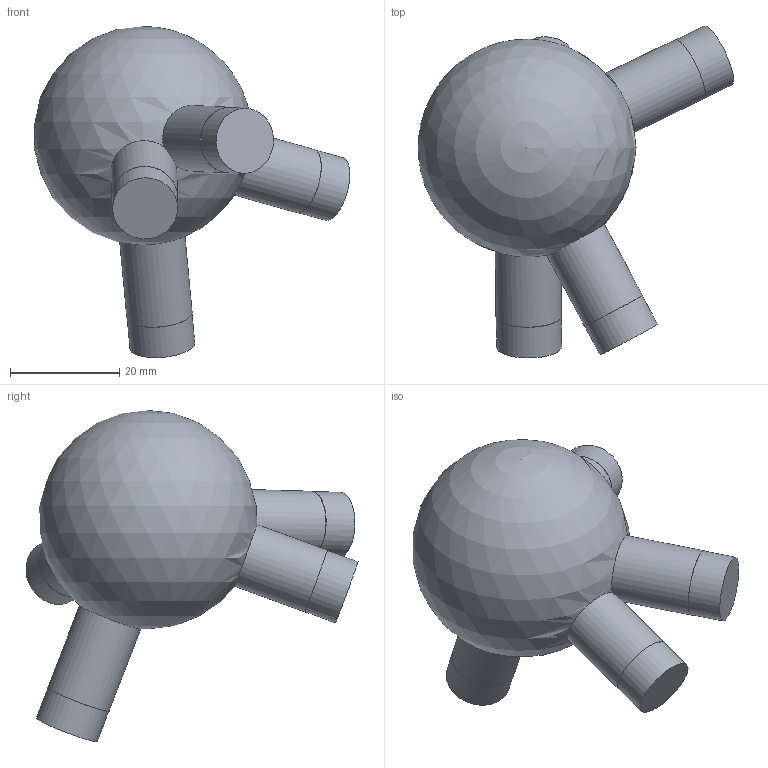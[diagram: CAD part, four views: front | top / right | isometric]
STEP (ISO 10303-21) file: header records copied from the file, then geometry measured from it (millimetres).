
FILE_DESCRIPTION(('Open CASCADE Model'),'2;1');
FILE_NAME('Open CASCADE Shape Model','2026-10-21T12:47:57',('Author'),( 'Open CASCADE'),'Open CASCADE STEP processor 7.9','Open CASCADE 7.9' ,'Unknown');
FILE_SCHEMA(('AUTOMOTIVE_DESIGN { 1 0 10303 214 1 1 1 1 }'));
Length unit declared in the file: millimetre
Products named in the file (1): Open CASCADE STEP translator 7.9 44
Bounding box: 57.74 x 60.75 x 60.63 mm (x, y, z)
Volume: 42715.3 mm3; surface area: 8155.9 mm2
Topology: 1 solids, 1 shells, 17 faces, 31 edges, 21 vertices
Faces by surface type: cylinder 8, plane 8, sphere 1
Full cylindrical faces by diameter (mm): 11.9 x4, 12 x4
Entity records: 1194 total; most frequent: CARTESIAN_POINT 548, DIRECTION 130, ORIENTED_EDGE 56, PCURVE 56, DEFINITIONAL_REPRESENTATION 56, LINE 42, VECTOR 42, AXIS2_PLACEMENT_3D 38
